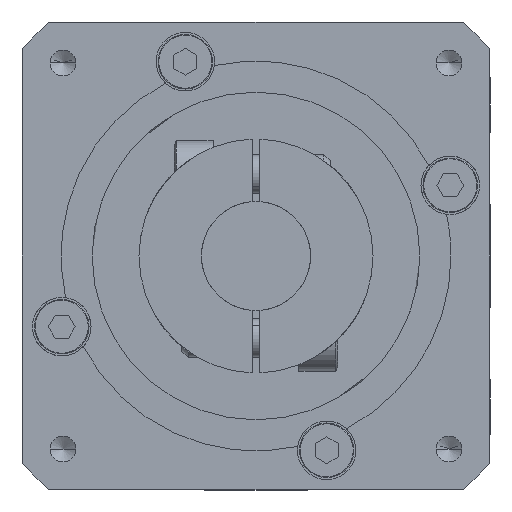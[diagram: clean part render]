
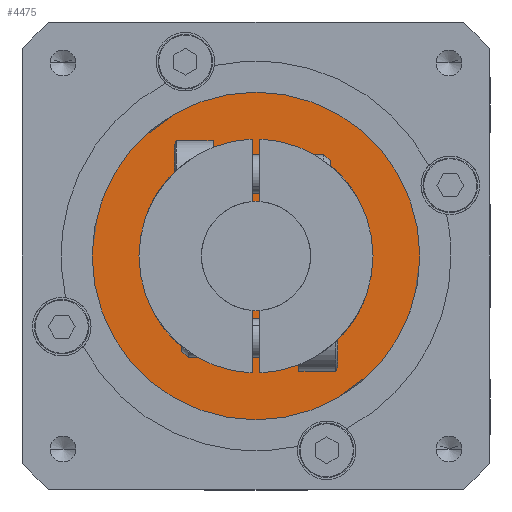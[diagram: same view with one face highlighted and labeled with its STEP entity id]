
A CAD part, front view. The second image highlights one B-rep face of the part: STEP entity #4475.
In plain terms, the highlighted planar face has unit normal (0, -1, 0).
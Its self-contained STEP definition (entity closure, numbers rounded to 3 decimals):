
#42 = ORIENTED_EDGE ( 'NONE', *, *, #1250, .T. ) ;
#63 = CARTESIAN_POINT ( 'NONE',  ( 0.5, 11., -6.982 ) ) ;
#90 = CARTESIAN_POINT ( 'NONE',  ( 0., 11., 0. ) ) ;
#109 = AXIS2_PLACEMENT_3D ( 'NONE', #4007, #9430, #4791 ) ;
#202 = VERTEX_POINT ( 'NONE', #5233 ) ;
#212 = VERTEX_POINT ( 'NONE', #9869 ) ;
#313 = LINE ( 'NONE', #6166, #8602 ) ;
#342 = VERTEX_POINT ( 'NONE', #7141 ) ;
#419 = CARTESIAN_POINT ( 'NONE',  ( 0., 11., 0. ) ) ;
#556 = EDGE_CURVE ( 'NONE', #3933, #8656, #2634, .T. ) ;
#673 = EDGE_CURVE ( 'NONE', #736, #1504, #3730, .T. ) ;
#736 = VERTEX_POINT ( 'NONE', #1052 ) ;
#778 = ORIENTED_EDGE ( 'NONE', *, *, #2156, .T. ) ;
#798 = CARTESIAN_POINT ( 'NONE',  ( 0., 11., -23. ) ) ;
#886 = DIRECTION ( 'NONE',  ( 0., 0., 1. ) ) ;
#929 = VERTEX_POINT ( 'NONE', #3992 ) ;
#1031 = CIRCLE ( 'NONE', #7228, 23. ) ;
#1052 = CARTESIAN_POINT ( 'NONE',  ( 0., 11., -7. ) ) ;
#1167 = DIRECTION ( 'NONE',  ( 0., 0., -1. ) ) ;
#1212 = DIRECTION ( 'NONE',  ( 0., 0., -1. ) ) ;
#1250 = EDGE_CURVE ( 'NONE', #202, #8305, #6061, .T. ) ;
#1449 = ORIENTED_EDGE ( 'NONE', *, *, #7086, .T. ) ;
#1504 = VERTEX_POINT ( 'NONE', #3429 ) ;
#1561 = CIRCLE ( 'NONE', #9939, 7. ) ;
#1855 = CARTESIAN_POINT ( 'NONE',  ( 0., 11., 0. ) ) ;
#1942 = DIRECTION ( 'NONE',  ( 0., 1., 0. ) ) ;
#2134 = EDGE_CURVE ( 'NONE', #8498, #3933, #9561, .T. ) ;
#2156 = EDGE_CURVE ( 'NONE', #8305, #736, #1561, .T. ) ;
#2284 = EDGE_CURVE ( 'NONE', #929, #212, #313, .T. ) ;
#2314 = CARTESIAN_POINT ( 'NONE',  ( 0., 11., 0. ) ) ;
#2432 = DIRECTION ( 'NONE',  ( 0., 0., -1. ) ) ;
#2506 = ORIENTED_EDGE ( 'NONE', *, *, #6892, .T. ) ;
#2631 = DIRECTION ( 'NONE',  ( 0., 0., -1. ) ) ;
#2634 = LINE ( 'NONE', #2683, #4721 ) ;
#2636 = AXIS2_PLACEMENT_3D ( 'NONE', #798, #3925, #9345 ) ;
#2683 = CARTESIAN_POINT ( 'NONE',  ( 0.5, 11., 18.176 ) ) ;
#2926 = VECTOR ( 'NONE', #2432, 1000. ) ;
#3037 = ORIENTED_EDGE ( 'NONE', *, *, #2134, .T. ) ;
#3102 = VERTEX_POINT ( 'NONE', #4597 ) ;
#3108 = AXIS2_PLACEMENT_3D ( 'NONE', #9451, #7119, #8673 ) ;
#3195 = EDGE_CURVE ( 'NONE', #3102, #342, #1031, .T. ) ;
#3278 = ORIENTED_EDGE ( 'NONE', *, *, #9248, .T. ) ;
#3282 = ORIENTED_EDGE ( 'NONE', *, *, #3195, .F. ) ;
#3289 = DIRECTION ( 'NONE',  ( 0., 1., 0. ) ) ;
#3312 = AXIS2_PLACEMENT_3D ( 'NONE', #419, #5861, #1212 ) ;
#3429 = CARTESIAN_POINT ( 'NONE',  ( -0.5, 11., -6.982 ) ) ;
#3522 = CIRCLE ( 'NONE', #3312, 7. ) ;
#3669 = DIRECTION ( 'NONE',  ( 0., 1., 0. ) ) ;
#3730 = CIRCLE ( 'NONE', #3108, 7. ) ;
#3908 = CARTESIAN_POINT ( 'NONE',  ( 0.5, 11., 18.176 ) ) ;
#3925 = DIRECTION ( 'NONE',  ( 0., 1., 0. ) ) ;
#3933 = VERTEX_POINT ( 'NONE', #8683 ) ;
#3992 = CARTESIAN_POINT ( 'NONE',  ( -0.5, 11., 11.489 ) ) ;
#4007 = CARTESIAN_POINT ( 'NONE',  ( 0., 11., 0. ) ) ;
#4212 = ORIENTED_EDGE ( 'NONE', *, *, #9908, .T. ) ;
#4475 = ADVANCED_FACE ( 'NONE', ( #6968, #9046 ), #6226, .F. ) ;
#4597 = CARTESIAN_POINT ( 'NONE',  ( 0., 11., 23. ) ) ;
#4721 = VECTOR ( 'NONE', #6538, 1000. ) ;
#4791 = DIRECTION ( 'NONE',  ( 0., 0., 1. ) ) ;
#5233 = CARTESIAN_POINT ( 'NONE',  ( 0.5, 11., -11.489 ) ) ;
#5391 = DIRECTION ( 'NONE',  ( 0., 0., -1. ) ) ;
#5445 = CARTESIAN_POINT ( 'NONE',  ( 0.5, 11., 11.489 ) ) ;
#5536 = DIRECTION ( 'NONE',  ( 0., 1., 0. ) ) ;
#5638 = CIRCLE ( 'NONE', #109, 23. ) ;
#5782 = EDGE_CURVE ( 'NONE', #342, #3102, #5638, .T. ) ;
#5861 = DIRECTION ( 'NONE',  ( 0., 1., 0. ) ) ;
#6061 = LINE ( 'NONE', #3908, #7872 ) ;
#6166 = CARTESIAN_POINT ( 'NONE',  ( -0.5, 11., 18.176 ) ) ;
#6226 = PLANE ( 'NONE',  #2636 ) ;
#6517 = ORIENTED_EDGE ( 'NONE', *, *, #673, .T. ) ;
#6538 = DIRECTION ( 'NONE',  ( 0., 0., 1. ) ) ;
#6806 = AXIS2_PLACEMENT_3D ( 'NONE', #1855, #7264, #2631 ) ;
#6892 = EDGE_CURVE ( 'NONE', #8347, #929, #9126, .T. ) ;
#6968 = FACE_BOUND ( 'NONE', #9096, .T. ) ;
#7046 = LINE ( 'NONE', #7848, #2926 ) ;
#7086 = EDGE_CURVE ( 'NONE', #212, #8498, #3522, .T. ) ;
#7119 = DIRECTION ( 'NONE',  ( 0., 1., 0. ) ) ;
#7141 = CARTESIAN_POINT ( 'NONE',  ( 0., 11., -23. ) ) ;
#7221 = AXIS2_PLACEMENT_3D ( 'NONE', #8311, #3669, #9115 ) ;
#7228 = AXIS2_PLACEMENT_3D ( 'NONE', #90, #5536, #886 ) ;
#7264 = DIRECTION ( 'NONE',  ( 0., 1., 0. ) ) ;
#7652 = AXIS2_PLACEMENT_3D ( 'NONE', #7931, #3289, #8730 ) ;
#7848 = CARTESIAN_POINT ( 'NONE',  ( -0.5, 11., 18.176 ) ) ;
#7872 = VECTOR ( 'NONE', #8777, 1000. ) ;
#7931 = CARTESIAN_POINT ( 'NONE',  ( 0., 11., 0. ) ) ;
#8077 = ORIENTED_EDGE ( 'NONE', *, *, #2284, .T. ) ;
#8305 = VERTEX_POINT ( 'NONE', #63 ) ;
#8311 = CARTESIAN_POINT ( 'NONE',  ( 0., 11., 0. ) ) ;
#8347 = VERTEX_POINT ( 'NONE', #8695 ) ;
#8498 = VERTEX_POINT ( 'NONE', #8921 ) ;
#8602 = VECTOR ( 'NONE', #5391, 1000. ) ;
#8638 = CIRCLE ( 'NONE', #7221, 11.5 ) ;
#8656 = VERTEX_POINT ( 'NONE', #5445 ) ;
#8673 = DIRECTION ( 'NONE',  ( 0., 0., -1. ) ) ;
#8683 = CARTESIAN_POINT ( 'NONE',  ( 0.5, 11., 6.982 ) ) ;
#8695 = CARTESIAN_POINT ( 'NONE',  ( -0.5, 11., -11.489 ) ) ;
#8730 = DIRECTION ( 'NONE',  ( 0., 0., 1. ) ) ;
#8777 = DIRECTION ( 'NONE',  ( 0., 0., 1. ) ) ;
#8914 = ORIENTED_EDGE ( 'NONE', *, *, #5782, .F. ) ;
#8921 = CARTESIAN_POINT ( 'NONE',  ( 0., 11., 7. ) ) ;
#9046 = FACE_OUTER_BOUND ( 'NONE', #9413, .T. ) ;
#9096 = EDGE_LOOP ( 'NONE', ( #3278, #2506, #8077, #1449, #3037, #9860, #4212, #42, #778, #6517 ) ) ;
#9115 = DIRECTION ( 'NONE',  ( 0., 0., 1. ) ) ;
#9126 = CIRCLE ( 'NONE', #7652, 11.5 ) ;
#9248 = EDGE_CURVE ( 'NONE', #1504, #8347, #7046, .T. ) ;
#9345 = DIRECTION ( 'NONE',  ( 0., 0., 1. ) ) ;
#9413 = EDGE_LOOP ( 'NONE', ( #3282, #8914 ) ) ;
#9430 = DIRECTION ( 'NONE',  ( 0., 1., 0. ) ) ;
#9451 = CARTESIAN_POINT ( 'NONE',  ( 0., 11., 0. ) ) ;
#9561 = CIRCLE ( 'NONE', #6806, 7. ) ;
#9860 = ORIENTED_EDGE ( 'NONE', *, *, #556, .T. ) ;
#9869 = CARTESIAN_POINT ( 'NONE',  ( -0.5, 11., 6.982 ) ) ;
#9908 = EDGE_CURVE ( 'NONE', #8656, #202, #8638, .T. ) ;
#9939 = AXIS2_PLACEMENT_3D ( 'NONE', #2314, #1942, #1167 ) ;
